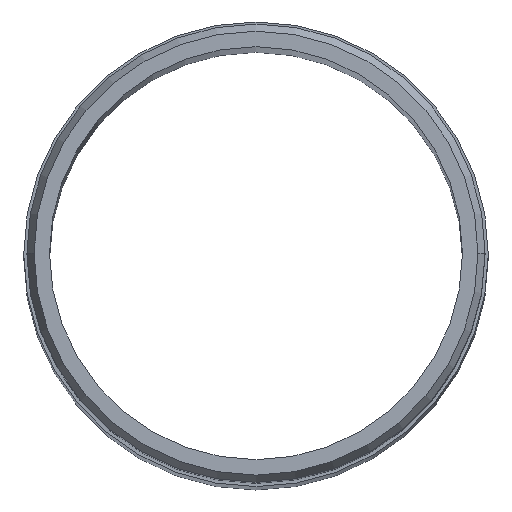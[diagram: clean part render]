
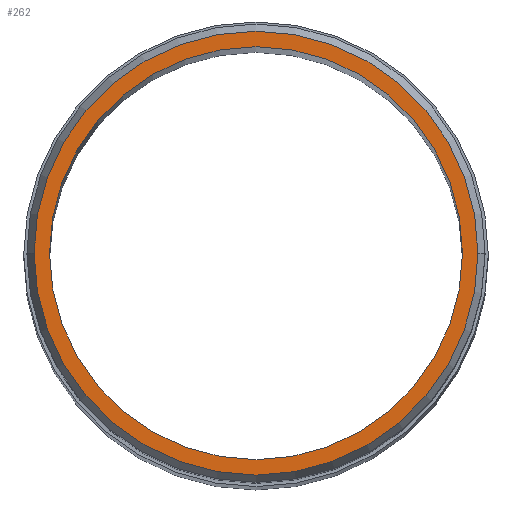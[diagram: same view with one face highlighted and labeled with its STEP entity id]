
A CAD part, top view. The second image highlights one B-rep face of the part: STEP entity #262.
In plain terms, the highlighted planar face has unit normal (0, 0, 1).
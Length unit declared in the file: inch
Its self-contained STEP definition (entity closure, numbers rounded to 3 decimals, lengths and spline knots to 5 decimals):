
#16 = DIRECTION ( 'NONE',  ( 1., 0., 0. ) ) ;
#25 = EDGE_CURVE ( 'Defeatured_0_1+Defeatured_0_4+Defeatured_0_4+Defeatured_0_4', #443, #114, #475, .T. ) ;
#56 = AXIS2_PLACEMENT_3D ( 'NONE', #335, #375, #453 ) ;
#59 = AXIS2_PLACEMENT_3D ( 'NONE', #329, #327, #112 ) ;
#71 = FACE_BOUND ( 'NONE', #289, .T. ) ;
#99 = ORIENTED_EDGE ( 'NONE', *, *, #376, .F. ) ;
#104 = PLANE ( 'NONE',  #393 ) ;
#106 = CARTESIAN_POINT ( 'NONE',  ( 0., 0., 7.87402 ) ) ;
#112 = DIRECTION ( 'NONE',  ( 1., 0., 0. ) ) ;
#113 = AXIS2_PLACEMENT_3D ( 'NONE', #406, #291, #184 ) ;
#114 = VERTEX_POINT ( 'NONE', #227 ) ;
#132 = EDGE_CURVE ( 'Defeatured_0_1+Defeatured_0_4+Defeatured_0_4+Defeatured_0_4', #114, #443, #408, .T. ) ;
#180 = AXIS2_PLACEMENT_3D ( 'NONE', #311, #340, #16 ) ;
#184 = DIRECTION ( 'NONE',  ( 1., 0., 0. ) ) ;
#188 = CARTESIAN_POINT ( 'NONE',  ( -1.07486, 0., 7.87402 ) ) ;
#224 = CARTESIAN_POINT ( 'NONE',  ( 1., 0., 7.87402 ) ) ;
#227 = CARTESIAN_POINT ( 'NONE',  ( 1.07486, 0., 7.87402 ) ) ;
#237 = EDGE_LOOP ( 'NONE', ( #410, #316 ) ) ;
#240 = DIRECTION ( 'NONE',  ( 1., 0., 0. ) ) ;
#262 = ADVANCED_FACE ( 'Defeatured_0_1', ( #71, #285 ), #104, .T. ) ;
#285 = FACE_OUTER_BOUND ( 'NONE', #237, .T. ) ;
#289 = EDGE_LOOP ( 'NONE', ( #444, #99 ) ) ;
#291 = DIRECTION ( 'NONE',  ( 0., 0., 1. ) ) ;
#311 = CARTESIAN_POINT ( 'NONE',  ( 0., 0., 7.87402 ) ) ;
#316 = ORIENTED_EDGE ( 'NONE', *, *, #132, .T. ) ;
#318 = VERTEX_POINT ( 'NONE', #394 ) ;
#327 = DIRECTION ( 'NONE',  ( 0., 0., 1. ) ) ;
#329 = CARTESIAN_POINT ( 'NONE',  ( 0., 0., 7.87402 ) ) ;
#335 = CARTESIAN_POINT ( 'NONE',  ( 0., 0., 7.87402 ) ) ;
#340 = DIRECTION ( 'NONE',  ( 0., 0., 1. ) ) ;
#351 = EDGE_CURVE ( 'Defeatured_0_9+Defeatured_0_1+Defeatured_0_1+Defeatured_0_1', #318, #417, #399, .T. ) ;
#375 = DIRECTION ( 'NONE',  ( 0., 0., 1. ) ) ;
#376 = EDGE_CURVE ( 'Defeatured_0_9+Defeatured_0_1+Defeatured_0_1+Defeatured_0_1', #417, #318, #437, .T. ) ;
#393 = AXIS2_PLACEMENT_3D ( 'NONE', #106, #442, #240 ) ;
#394 = CARTESIAN_POINT ( 'NONE',  ( -1., 0., 7.87402 ) ) ;
#399 = CIRCLE ( 'NONE', #59, 1. ) ;
#406 = CARTESIAN_POINT ( 'NONE',  ( 0., 0., 7.87402 ) ) ;
#408 = CIRCLE ( 'NONE', #180, 1.07486 ) ;
#410 = ORIENTED_EDGE ( 'NONE', *, *, #25, .T. ) ;
#417 = VERTEX_POINT ( 'NONE', #224 ) ;
#437 = CIRCLE ( 'NONE', #113, 1. ) ;
#442 = DIRECTION ( 'NONE',  ( 0., 0., 1. ) ) ;
#443 = VERTEX_POINT ( 'NONE', #188 ) ;
#444 = ORIENTED_EDGE ( 'NONE', *, *, #351, .F. ) ;
#453 = DIRECTION ( 'NONE',  ( 1., 0., 0. ) ) ;
#475 = CIRCLE ( 'NONE', #56, 1.07486 ) ;
